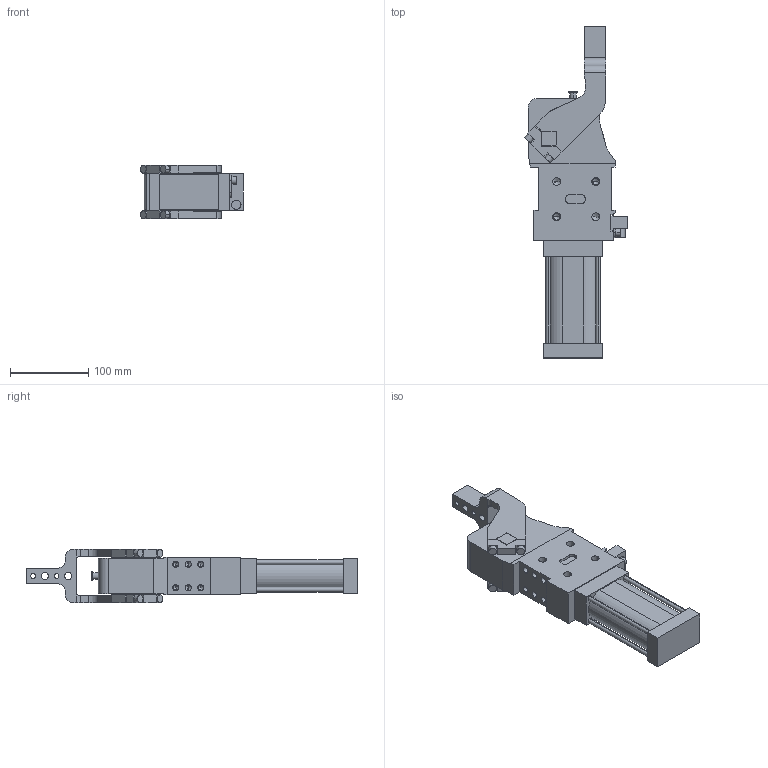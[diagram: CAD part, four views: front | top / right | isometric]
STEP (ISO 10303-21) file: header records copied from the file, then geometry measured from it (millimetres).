
FILE_DESCRIPTION (( 'STEP AP214' ), '1' );
FILE_NAME ('cpl50h3csi1g_75.STEP', '2023-01-26T09:53:55', ( '' ), ( '' ), 'SwSTEP 2.0', 'SolidWorks 2022', '' );
FILE_SCHEMA (( 'AUTOMOTIVE_DESIGN' ));
Length unit declared in the file: millimetre
Products named in the file (4): leva_cx_offset_45_cpl50; blocchetto_VEP_0; cpl50h3csi1g_75; meccanica_cpl_50
Assembly tree (3 placements, depth 2):
  cpl50h3csi1g_75
    meccanica_cpl_50
    blocchetto_VEP_0
    leva_cx_offset_45_cpl50
Bounding box: 131.47 x 424.5 x 69 mm (x, y, z)
Volume: 1390552.4 mm3; surface area: 165759.9 mm2
Topology: 3 solids, 3 shells, 401 faces, 1035 edges, 643 vertices
Faces by surface type: plane 195, cylinder 156, cone 50
Entity records: 13479 total; most frequent: DIRECTION 2125, CARTESIAN_POINT 2115, ORIENTED_EDGE 1978, EDGE_CURVE 989, AXIS2_PLACEMENT_3D 735, VECTOR 655, LINE 655, VERTEX_POINT 643
